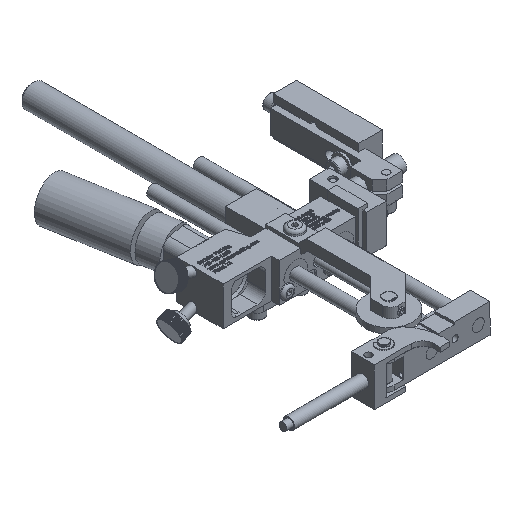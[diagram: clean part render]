
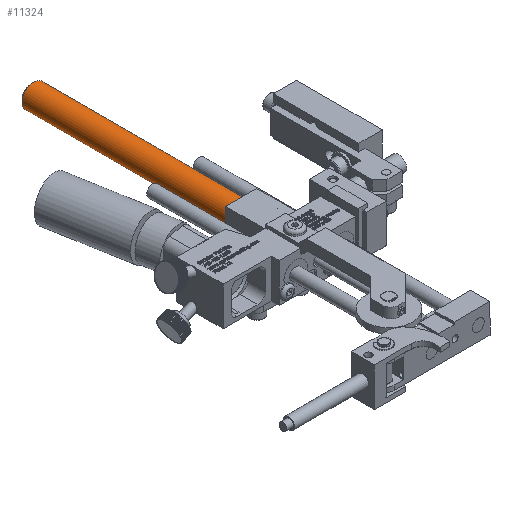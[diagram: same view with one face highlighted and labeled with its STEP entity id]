
A CAD part, isometric view. The second image highlights one B-rep face of the part: STEP entity #11324.
In plain terms, the highlighted cylindrical face has radius 4.763 mm (diameter 9.525 mm), a full revolution.
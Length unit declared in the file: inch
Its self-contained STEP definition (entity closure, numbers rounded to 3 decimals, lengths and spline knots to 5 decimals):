
#11293=CARTESIAN_POINT('',(0.69592,4.68233,-0.5005));
#11294=VERTEX_POINT('',#11293);
#11295=CARTESIAN_POINT('',(0.69592,4.68233,-0.313));
#11296=DIRECTION('',(0.0,1.0,0.0));
#11297=DIRECTION('',(0.0,0.0,1.0));
#11298=AXIS2_PLACEMENT_3D('',#11295,#11296,#11297);
#11299=CIRCLE('',#11298,0.1875);
#11300=EDGE_CURVE('',#11294,#11294,#11299,.T.);
#11305=CARTESIAN_POINT('',(0.69592,1.33733,-0.313));
#11306=DIRECTION('',(0.,1.0,0.));
#11307=DIRECTION('',(0.0,0.0,1.0));
#11308=AXIS2_PLACEMENT_3D('',#11305,#11306,#11307);
#11309=CYLINDRICAL_SURFACE('',#11308,0.1875);
#11310=CARTESIAN_POINT('',(0.69592,1.33733,-0.5005));
#11311=VERTEX_POINT('',#11310);
#11312=CARTESIAN_POINT('',(0.69592,1.33733,-0.313));
#11313=DIRECTION('',(0.0,-1.0,0.0));
#11314=DIRECTION('',(0.0,0.0,1.0));
#11315=AXIS2_PLACEMENT_3D('',#11312,#11313,#11314);
#11316=CIRCLE('',#11315,0.1875);
#11317=EDGE_CURVE('',#11311,#11311,#11316,.T.);
#11318=ORIENTED_EDGE('',*,*,#11317,.F.);
#11319=EDGE_LOOP('',(#11318));
#11320=FACE_OUTER_BOUND('',#11319,.T.);
#11321=ORIENTED_EDGE('',*,*,#11300,.F.);
#11322=EDGE_LOOP('',(#11321));
#11323=FACE_BOUND('',#11322,.T.);
#11324=ADVANCED_FACE('',(#11320,#11323),#11309,.T.);
